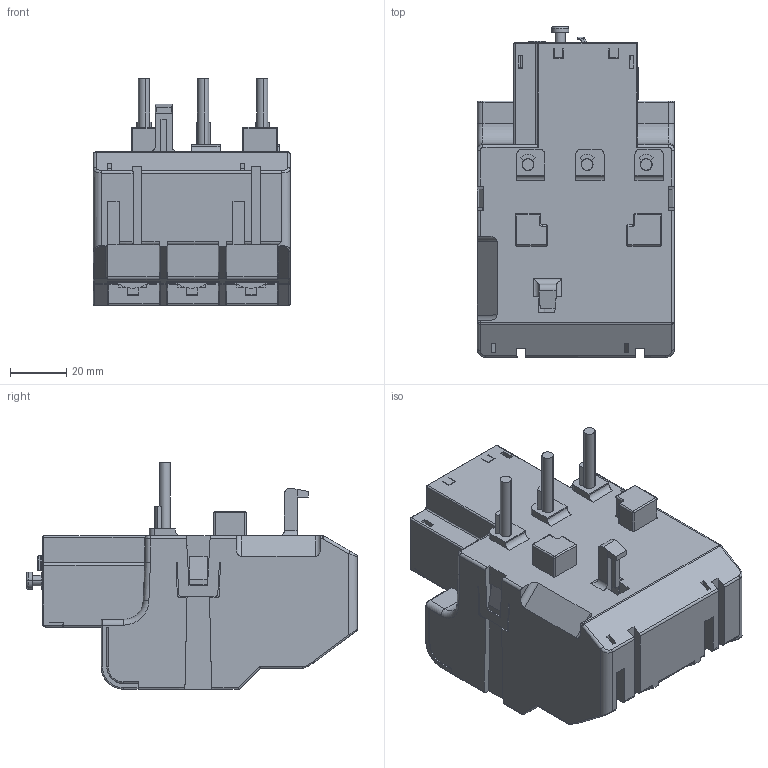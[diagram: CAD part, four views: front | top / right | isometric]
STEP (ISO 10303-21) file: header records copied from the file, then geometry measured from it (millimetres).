
FILE_DESCRIPTION((''),'2;1');
FILE_NAME('2TZD_331_1006_SW0001','2022-05-09T',('xujianyu'),(''),'PRO/ENGINEER BY PARAMETRIC TECHNOLOGY CORPORATION, 2017170','PRO/ENGINEER BY PARAMETRIC TECHNOLOGY CORPORATION, 2017170','');
FILE_SCHEMA(('CONFIG_CONTROL_DESIGN'));
Products named in the file (1): 2TZD_331_1006_SW0001
Bounding box: 70.1 x 117.45 x 80.5 mm (x, y, z)
Volume: 245348.6 mm3; surface area: 100804.8 mm2
Topology: 4 solids, 4 shells, 5031 faces, 14437 edges, 9413 vertices
Faces by surface type: plane 3966, cylinder 752, cone 87, torus 77, extrusion 70, sphere 42, bspline 37
Entity records: 205715 total; most frequent: CARTESIAN_POINT 37021, ORIENTED_EDGE 28850, DIRECTION 25530, EDGE_CURVE 14425, VECTOR 12138, LINE 12068, VERTEX_POINT 9413, AXIS2_PLACEMENT_3D 6696
